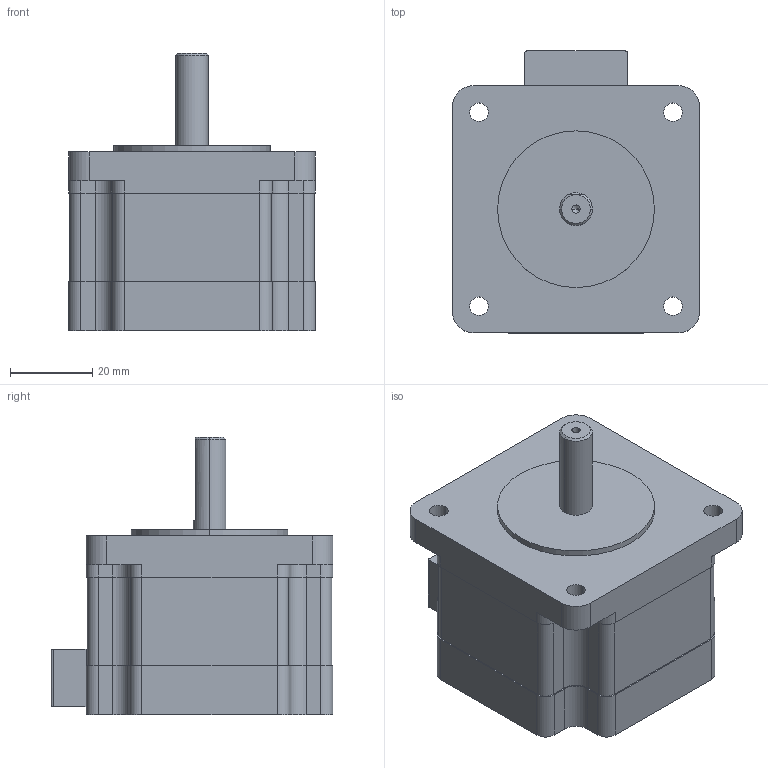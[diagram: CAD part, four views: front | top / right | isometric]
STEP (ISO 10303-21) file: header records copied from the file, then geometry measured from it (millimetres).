
FILE_DESCRIPTION (( 'STEP AP214' ), '1' );
FILE_NAME ('TS3606N1E1.STEP', '2016-09-09T03:16:39', ( 'hoho' ), ( '' ), 'SwSTEP 2.0', 'SolidWorks 2013', '' );
FILE_SCHEMA (( 'AUTOMOTIVE_DESIGN' ));
Length unit declared in the file: millimetre
Products named in the file (1): TS3606N1E1
Bounding box: 60 x 68.5 x 67.5 mm (x, y, z)
Volume: 144172.6 mm3; surface area: 18907.8 mm2
Topology: 1 solids, 1 shells, 116 faces, 321 edges, 210 vertices
Faces by surface type: cylinder 57, plane 54, cone 5
Entity records: 4035 total; most frequent: CARTESIAN_POINT 667, DIRECTION 662, ORIENTED_EDGE 638, EDGE_CURVE 319, AXIS2_PLACEMENT_3D 231, VERTEX_POINT 210, LINE 200, VECTOR 200
